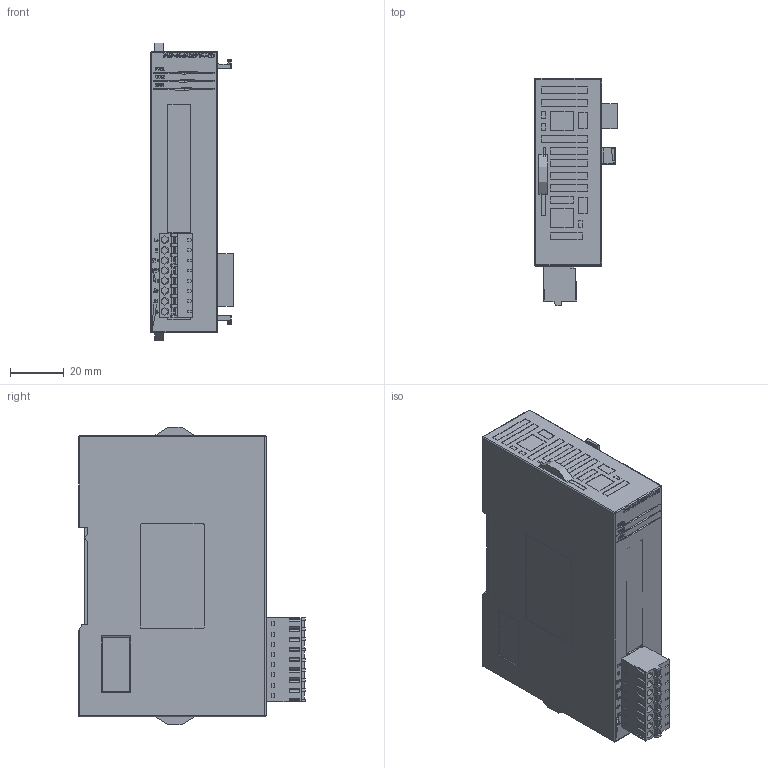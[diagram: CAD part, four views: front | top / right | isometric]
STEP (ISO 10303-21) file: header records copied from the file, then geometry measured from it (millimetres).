
FILE_DESCRIPTION(('STEP AP242'), '1');
FILE_NAME('PMP-01-2AD2PT-V-ED', '', ('UNSPECIFIED'), ('UNSPECIFIED'), 'C3D Converter', 'C3D Toolkit', '');
FILE_SCHEMA(('AP242_MANAGED_MODEL_BASED_3D_ENGINEERING_MIM_LF { 1 0 10303 442 1 1 4 }'));
Length unit declared in the file: millimetre
Products named in the file (1): PMP-01-2AD2PT-V-ED
Bounding box: 30.8 x 84.71 x 110.91 mm (x, y, z)
Surface area: 29151.8 mm2
Topology: 18 solids, 35 shells, 1341 faces, 3594 edges, 2398 vertices
Faces by surface type: plane 976, bspline 148, extrusion 131, cylinder 86
Full cylindrical faces by diameter (mm): 3 x8
Entity records: 65120 total; most frequent: CARTESIAN_POINT 22203, ORIENTED_EDGE 7066, DIRECTION 5343, EDGE_CURVE 3585, VECTOR 2791, LINE 2660, VERTEX_POINT 2398, EDGE_LOOP 1501
